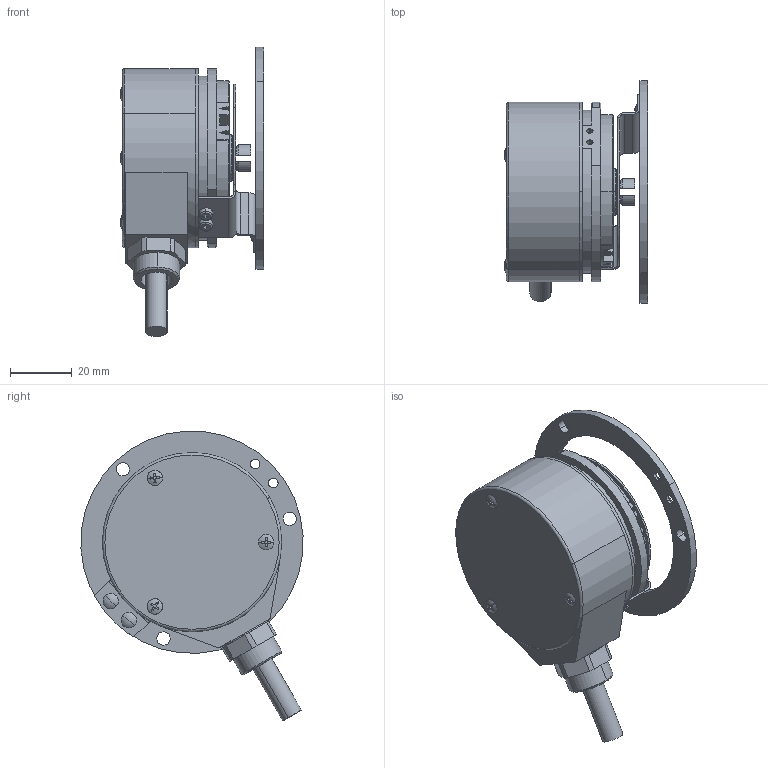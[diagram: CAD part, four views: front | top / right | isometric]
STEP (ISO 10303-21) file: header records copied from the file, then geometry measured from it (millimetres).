
FILE_DESCRIPTION (( 'STEP AP203' ), '1' );
FILE_NAME ('8.5825.41X1.XXXX.STEP', '2013-11-20T12:51:18', ( 'HeirlerN' ), ( 'Microsoft' ), 'SwSTEP 2.0', 'SolidWorks 2013', '' );
FILE_SCHEMA (( 'CONFIG_CONTROL_DESIGN' ));
Length unit declared in the file: millimetre
Products named in the file (1): 8.5825.41X1.XXXX
Bounding box: 46.38 x 71.87 x 93.76 mm (x, y, z)
Volume: 57953.1 mm3; surface area: 42729.7 mm2
Topology: 18 solids, 19 shells, 610 faces, 1565 edges, 976 vertices
Faces by surface type: plane 209, cylinder 205, cone 108, torus 46, sphere 42
Entity records: 19238 total; most frequent: CARTESIAN_POINT 4508, DIRECTION 3241, ORIENTED_EDGE 2910, EDGE_CURVE 1455, AXIS2_PLACEMENT_3D 1297, VERTEX_POINT 928, EDGE_LOOP 733, CIRCLE 686
